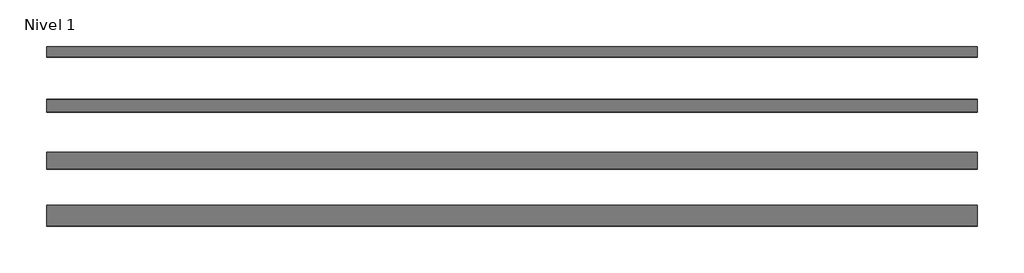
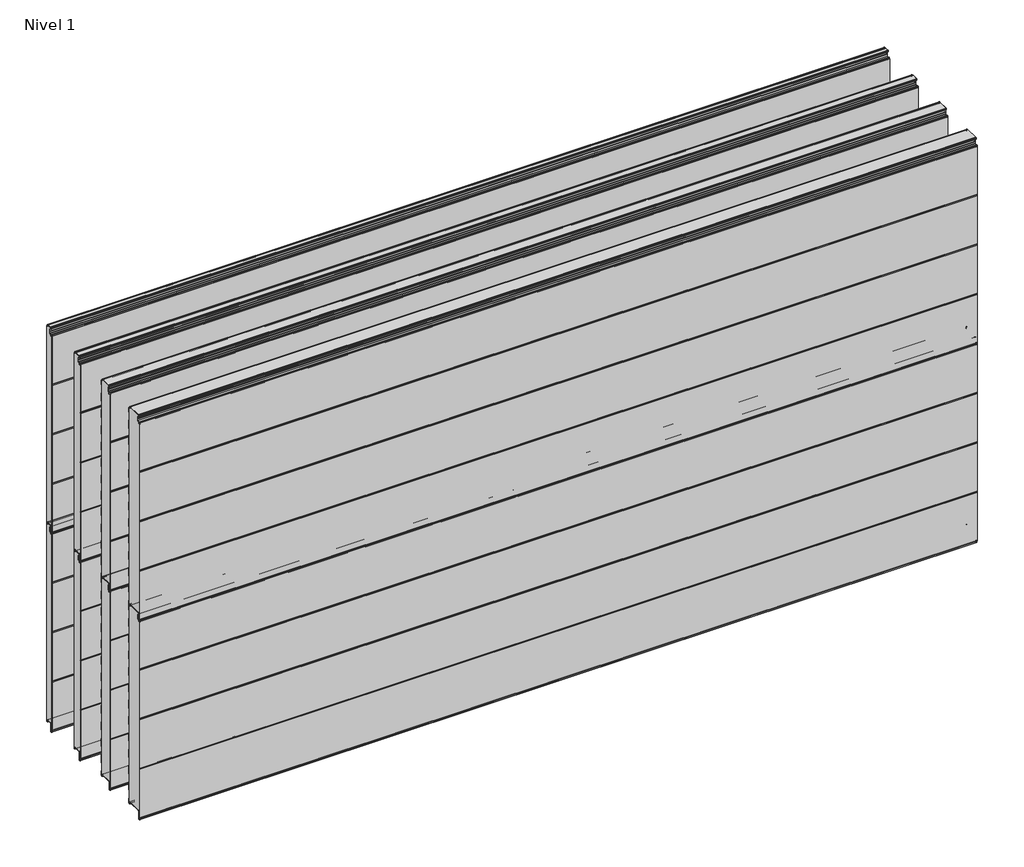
# One storey, incomplete: 8 plates.
"""IFC4 building model written with IfcOpenShell, lengths in millimetres."""

from ifc_helpers import new_model, si_unit, origin, place, context, project, spatial, transform, mapped, element, save
from components import plate_100_mm_49859a12, plate_50_mm_0d95fa54, plate_60_mm_8ddfc945, plate_80_mm_353dea63

model = new_model("IFC4")

# Units and contexts
model_context = context("Model", 3, world=origin())
ifc_project = project(units=[si_unit("LENGTHUNIT", "METRE", prefix="MILLI")], contexts=[model_context])

# Site, building, storey
site = spatial("IfcSite", under=ifc_project)
building = spatial("IfcBuilding", under=site)
storey = spatial("IfcBuildingStorey", under=building, Name="Nivel 1", Elevation=0.0)

# Plates
placement = place(None, origin())
plate_100_mm_shape = plate_100_mm_49859a12(model_context)
element("IfcPlate", 1, ObjectType="HIANSA PANEL - H20.F05.003-HFM-PANELES DE FACHADA HOR - PANEL SEMILISO - Panel de Muro Cortina : 100 mm", at=placement, inside=storey, context=model_context, shape_type="MappedRepresentation", body=[
    mapped(plate_100_mm_shape, transform((6468.14367, 17686.5269271, 0.0), x_axis=(1.0, 0.0, 0.0), y_axis=(0.0, 1.0, 0.0), z_axis=(0.0, 0.0, 1.0))),
])
element("IfcPlate", 2, ObjectType="HIANSA PANEL - H20.F05.003-HFM-PANELES DE FACHADA HOR - PANEL SEMILISO - Panel de Muro Cortina : 100 mm", at=placement, inside=storey, context=model_context, shape_type="MappedRepresentation", body=[
    mapped(plate_100_mm_shape, transform((6468.14367, 17686.5269271, 1100.0), x_axis=(1.0, 0.0, 0.0), y_axis=(0.0, 1.0, 0.0), z_axis=(0.0, 0.0, 1.0))),
])
plate_50_mm_shape = plate_50_mm_0d95fa54(model_context)
element("IfcPlate", 3, ObjectType="HIANSA PANEL - H20.F05.003-HFM-PANELES DE FACHADA HOR - PANEL SEMILISO - Panel de Muro Cortina : 50 mm", at=placement, inside=storey, context=model_context, shape_type="MappedRepresentation", body=[
    mapped(plate_50_mm_shape, transform((6468.14367, 18436.5269271, 0.0), x_axis=(1.0, 0.0, 0.0), y_axis=(0.0, 1.0, 0.0), z_axis=(0.0, 0.0, 1.0))),
])
element("IfcPlate", 4, ObjectType="HIANSA PANEL - H20.F05.003-HFM-PANELES DE FACHADA HOR - PANEL SEMILISO - Panel de Muro Cortina : 50 mm", at=placement, inside=storey, context=model_context, shape_type="MappedRepresentation", body=[
    mapped(plate_50_mm_shape, transform((6468.14367, 18436.5269271, 1100.0), x_axis=(1.0, 0.0, 0.0), y_axis=(0.0, 1.0, 0.0), z_axis=(0.0, 0.0, 1.0))),
])
plate_60_mm_shape = plate_60_mm_8ddfc945(model_context)
element("IfcPlate", 5, ObjectType="HIANSA PANEL - H20.F05.003-HFM-PANELES DE FACHADA HOR - PANEL SEMILISO - Panel de Muro Cortina : 60 mm", at=placement, inside=storey, context=model_context, shape_type="MappedRepresentation", body=[
    mapped(plate_60_mm_shape, transform((6468.14367, 18186.5269271, 0.0), x_axis=(1.0, 0.0, 0.0), y_axis=(0.0, 1.0, 0.0), z_axis=(0.0, 0.0, 1.0))),
])
element("IfcPlate", 6, ObjectType="HIANSA PANEL - H20.F05.003-HFM-PANELES DE FACHADA HOR - PANEL SEMILISO - Panel de Muro Cortina : 60 mm", at=placement, inside=storey, context=model_context, shape_type="MappedRepresentation", body=[
    mapped(plate_60_mm_shape, transform((6468.14367, 18186.5269271, 1100.0), x_axis=(1.0, 0.0, 0.0), y_axis=(0.0, 1.0, 0.0), z_axis=(0.0, 0.0, 1.0))),
])
plate_80_mm_shape = plate_80_mm_353dea63(model_context)
element("IfcPlate", 7, ObjectType="HIANSA PANEL - H20.F05.003-HFM-PANELES DE FACHADA HOR - PANEL SEMILISO - Panel de Muro Cortina : 80 mm", at=placement, inside=storey, context=model_context, shape_type="MappedRepresentation", body=[
    mapped(plate_80_mm_shape, transform((6468.14367, 17936.5269271, 0.0), x_axis=(1.0, 0.0, 0.0), y_axis=(0.0, 1.0, 0.0), z_axis=(0.0, 0.0, 1.0))),
])
element("IfcPlate", 8, ObjectType="HIANSA PANEL - H20.F05.003-HFM-PANELES DE FACHADA HOR - PANEL SEMILISO - Panel de Muro Cortina : 80 mm", at=placement, inside=storey, context=model_context, shape_type="MappedRepresentation", body=[
    mapped(plate_80_mm_shape, transform((6468.14367, 17936.5269271, 1100.0), x_axis=(1.0, 0.0, 0.0), y_axis=(0.0, 1.0, 0.0), z_axis=(0.0, 0.0, 1.0))),
])

save(model, "model.ifc")
